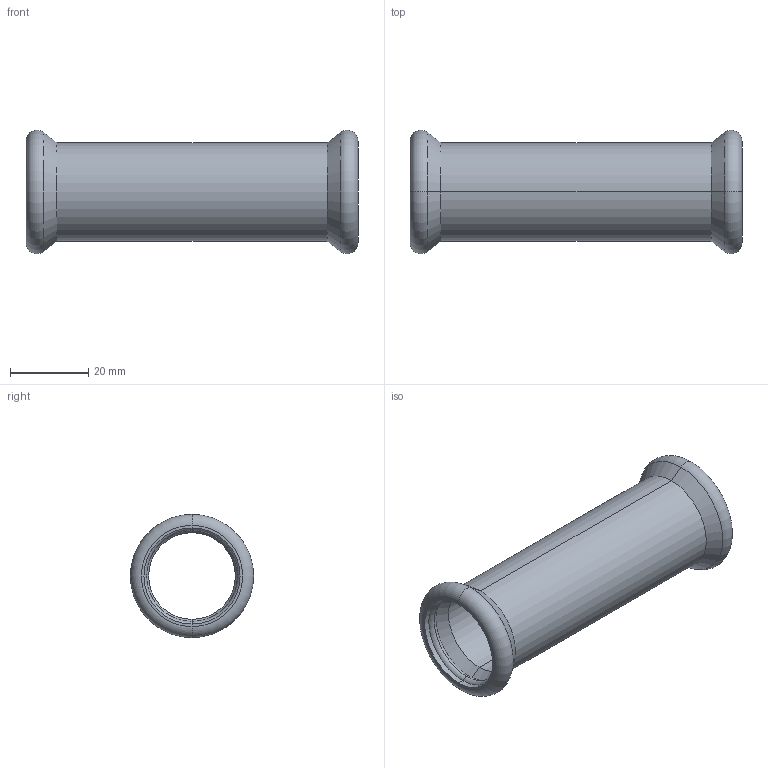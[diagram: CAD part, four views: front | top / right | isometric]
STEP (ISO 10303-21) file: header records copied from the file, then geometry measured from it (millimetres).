
FILE_DESCRIPTION (( 'STEP AP214' ), '1' );
FILE_NAME ('S22000K.STEP', '2025-08-17T07:31:20', ( '' ), ( '' ), 'SwSTEP 2.0', 'SolidWorks 2020', '' );
FILE_SCHEMA (( 'AUTOMOTIVE_DESIGN' ));
Length unit declared in the file: millimetre
Products named in the file (1): S22000K
Bounding box: 85 x 31.6 x 31.6 mm (x, y, z)
Volume: 11240.3 mm3; surface area: 14342.6 mm2
Topology: 1 solids, 1 shells, 32 faces, 64 edges, 36 vertices
Faces by surface type: torus 12, cone 8, cylinder 8, plane 4
Entity records: 1138 total; most frequent: DIRECTION 178, CARTESIAN_POINT 133, ORIENTED_EDGE 128, AXIS2_PLACEMENT_3D 81, EDGE_CURVE 64, CIRCLE 48, EDGE_LOOP 36, VERTEX_POINT 36
